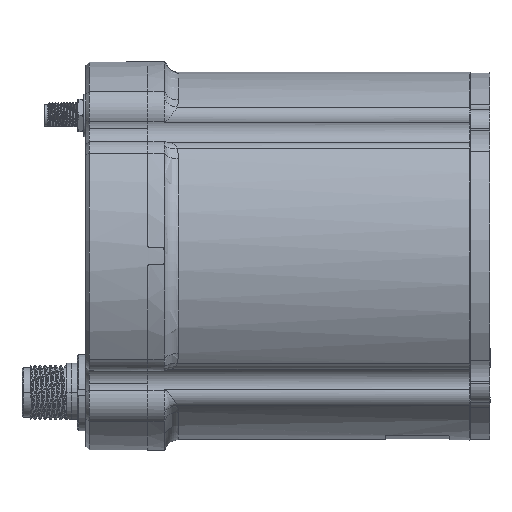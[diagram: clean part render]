
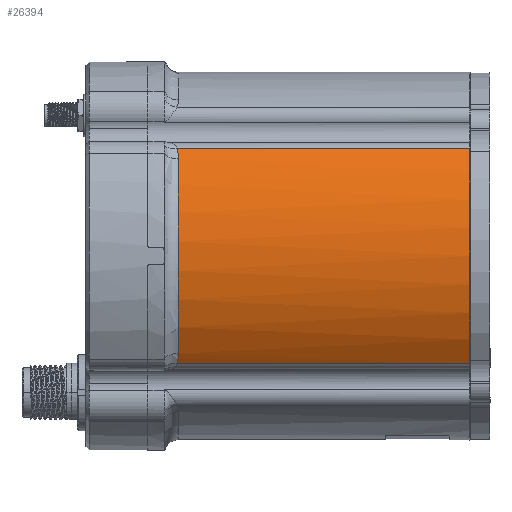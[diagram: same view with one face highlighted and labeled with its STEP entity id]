
A CAD part, left-side view. The second image highlights one B-rep face of the part: STEP entity #26394.
In plain terms, the highlighted cylindrical face has radius 44.45 mm (diameter 88.9 mm), a partial arc.
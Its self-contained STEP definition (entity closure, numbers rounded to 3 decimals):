
#932 = ORIENTED_EDGE ( 'NONE', *, *, #9029, .T. ) ;
#1360 = EDGE_CURVE ( 'NONE', #16853, #30048, #56125, .T. ) ;
#1442 = DIRECTION ( 'NONE',  ( 0., 0., -1. ) ) ;
#1658 = CARTESIAN_POINT ( 'NONE',  ( -125.186, 75.331, 25.466 ) ) ;
#3001 = VECTOR ( 'NONE', #46880, 1000. ) ;
#4749 = CARTESIAN_POINT ( 'NONE',  ( -87.75, 4.7, 1.494 ) ) ;
#5022 = DIRECTION ( 'NONE',  ( 0., 0., 1. ) ) ;
#6130 = CARTESIAN_POINT ( 'NONE',  ( -123.751, 75.582, 27.567 ) ) ;
#6853 = VERTEX_POINT ( 'NONE', #64623 ) ;
#7253 = EDGE_CURVE ( 'NONE', #74227, #43605, #69075, .T. ) ;
#8960 = VECTOR ( 'NONE', #28876, 1000. ) ;
#9029 = EDGE_CURVE ( 'NONE', #59674, #16853, #36235, .T. ) ;
#11453 = EDGE_CURVE ( 'NONE', #30048, #74227, #50520, .T. ) ;
#16853 = VERTEX_POINT ( 'NONE', #6130 ) ;
#19233 = CARTESIAN_POINT ( 'NONE',  ( -125.186, 75.331, -22.477 ) ) ;
#22619 = CARTESIAN_POINT ( 'NONE',  ( -123.751, 4.7, -24.578 ) ) ;
#25472 = CARTESIAN_POINT ( 'NONE',  ( -124.337, 75.42, -23.754 ) ) ;
#26394 = ADVANCED_FACE ( 'NONE', ( #40239 ), #49060, .T. ) ;
#28876 = DIRECTION ( 'NONE',  ( 0., -1., 0. ) ) ;
#29179 = ORIENTED_EDGE ( 'NONE', *, *, #7253, .T. ) ;
#30048 = VERTEX_POINT ( 'NONE', #80831 ) ;
#30928 = DIRECTION ( 'NONE',  ( 0., -1., 0. ) ) ;
#31117 = AXIS2_PLACEMENT_3D ( 'NONE', #4749, #79625, #5022 ) ;
#31777 = CARTESIAN_POINT ( 'NONE',  ( -123.751, 75.582, -24.578 ) ) ;
#32766 = EDGE_LOOP ( 'NONE', ( #932, #38108, #74531, #29179, #79760, #61481 ) ) ;
#34450 = CARTESIAN_POINT ( 'NONE',  ( -124.046, 75.479, 27.16 ) ) ;
#34880 = EDGE_CURVE ( 'NONE', #6853, #59674, #56881, .T. ) ;
#35794 = AXIS2_PLACEMENT_3D ( 'NONE', #76338, #38867, #1442 ) ;
#36235 = LINE ( 'NONE', #78098, #3001 ) ;
#38108 = ORIENTED_EDGE ( 'NONE', *, *, #1360, .T. ) ;
#38867 = DIRECTION ( 'NONE',  ( 0., 1., 0. ) ) ;
#39347 = CARTESIAN_POINT ( 'NONE',  ( -123.751, 75.582, 27.567 ) ) ;
#39741 = EDGE_CURVE ( 'NONE', #43605, #6853, #42148, .T. ) ;
#40239 = FACE_OUTER_BOUND ( 'NONE', #32766, .T. ) ;
#40395 = CARTESIAN_POINT ( 'NONE',  ( -123.751, 4.9, 27.567 ) ) ;
#42148 = LINE ( 'NONE', #22619, #8960 ) ;
#43605 = VERTEX_POINT ( 'NONE', #52953 ) ;
#45859 = CARTESIAN_POINT ( 'NONE',  ( -125.458, 75.331, 25.031 ) ) ;
#46880 = DIRECTION ( 'NONE',  ( 0., 1., 0. ) ) ;
#49060 = CYLINDRICAL_SURFACE ( 'NONE', #31117, 44.45 ) ;
#50520 = CIRCLE ( 'NONE', #64684, 44.45 ) ;
#52953 = CARTESIAN_POINT ( 'NONE',  ( -123.751, 75.582, -24.578 ) ) ;
#56125 = B_SPLINE_CURVE_WITH_KNOTS ( 'NONE', 3,
 ( #39347, #34450, #63697, #57687, #1658, #45859 ),
 .UNSPECIFIED., .F., .F.,
 ( 4, 2, 4 ),
 ( 0., 0.002, 0.003 ),
 .UNSPECIFIED. ) ;
#56881 = CIRCLE ( 'NONE', #35794, 44.45 ) ;
#57687 = CARTESIAN_POINT ( 'NONE',  ( -124.907, 75.346, 25.896 ) ) ;
#58802 = CARTESIAN_POINT ( 'NONE',  ( -125.458, 75.331, -22.042 ) ) ;
#59674 = VERTEX_POINT ( 'NONE', #40395 ) ;
#61481 = ORIENTED_EDGE ( 'NONE', *, *, #34880, .T. ) ;
#62924 = CARTESIAN_POINT ( 'NONE',  ( -124.907, 75.346, -22.907 ) ) ;
#63697 = CARTESIAN_POINT ( 'NONE',  ( -124.337, 75.42, 26.743 ) ) ;
#64623 = CARTESIAN_POINT ( 'NONE',  ( -123.751, 4.9, -24.578 ) ) ;
#64684 = AXIS2_PLACEMENT_3D ( 'NONE', #68411, #30928, #74704 ) ;
#68411 = CARTESIAN_POINT ( 'NONE',  ( -87.75, 75.331, 1.494 ) ) ;
#68972 = CARTESIAN_POINT ( 'NONE',  ( -125.458, 75.331, -22.042 ) ) ;
#69075 = B_SPLINE_CURVE_WITH_KNOTS ( 'NONE', 3,
 ( #68972, #19233, #62924, #25472, #69243, #31777 ),
 .UNSPECIFIED., .F., .F.,
 ( 4, 2, 4 ),
 ( 0., 0.002, 0.003 ),
 .UNSPECIFIED. ) ;
#69243 = CARTESIAN_POINT ( 'NONE',  ( -124.046, 75.479, -24.171 ) ) ;
#74227 = VERTEX_POINT ( 'NONE', #58802 ) ;
#74531 = ORIENTED_EDGE ( 'NONE', *, *, #11453, .T. ) ;
#74704 = DIRECTION ( 'NONE',  ( 0., 0., 1. ) ) ;
#76338 = CARTESIAN_POINT ( 'NONE',  ( -87.75, 4.9, 1.494 ) ) ;
#78098 = CARTESIAN_POINT ( 'NONE',  ( -123.751, 4.7, 27.567 ) ) ;
#79625 = DIRECTION ( 'NONE',  ( 0., 1., 0. ) ) ;
#79760 = ORIENTED_EDGE ( 'NONE', *, *, #39741, .T. ) ;
#80831 = CARTESIAN_POINT ( 'NONE',  ( -125.458, 75.331, 25.031 ) ) ;
